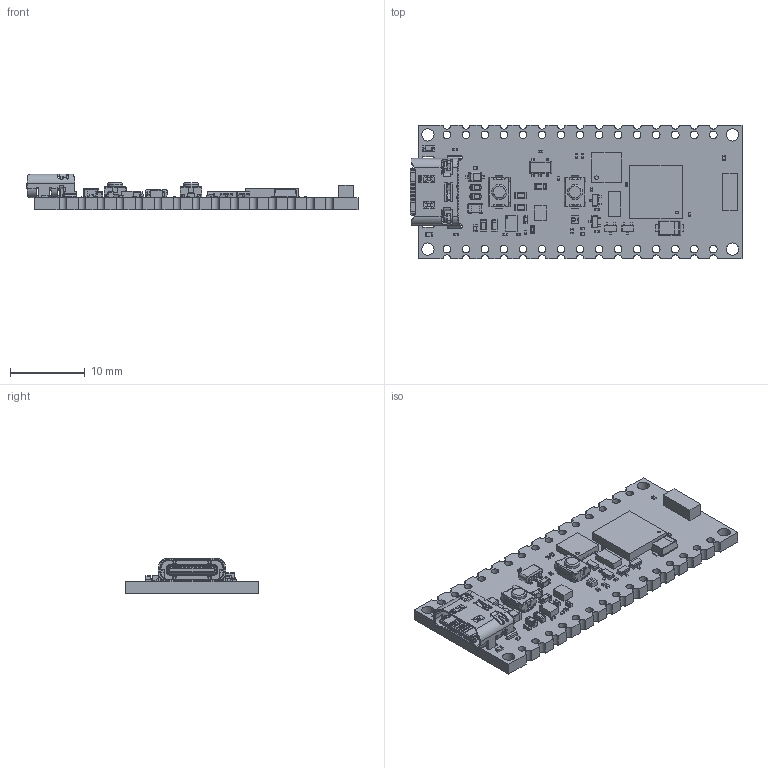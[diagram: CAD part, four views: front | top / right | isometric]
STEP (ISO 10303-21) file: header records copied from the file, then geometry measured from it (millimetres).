
FILE_DESCRIPTION(('Open CASCADE Model'),'2;1');
FILE_NAME('Open CASCADE Shape Model','2024-11-14T17:50:22',('Author'),( 'Open CASCADE'),'Open CASCADE STEP processor 7.5','Open CASCADE 7.5' ,'Unknown');
FILE_SCHEMA(('AUTOMOTIVE_DESIGN { 1 0 10303 214 1 1 1 1 }'));
Length unit declared in the file: millimetre
Products named in the file (98): Open CASCADE STEP translator 7.5 1; Open CASCADE STEP translator 7.5 2; Open CASCADE STEP translator 7.5 3; Open CASCADE STEP translator 7.5 4; Open CASCADE STEP translator 7.5 5; Open CASCADE STEP translator 7.5 6; Open CASCADE STEP translator 7.5 7; Open CASCADE STEP translator 7.5 8; Open CASCADE STEP translator 7.5 9; Open CASCADE STEP translator 7.5 10; Open CASCADE STEP translator 7.5 11; Open CASCADE STEP translator 7.5 12; Open CASCADE STEP translator 7.5 13; Open CASCADE STEP translator 7.5 14; Open CASCADE STEP translator 7.5 15; Open CASCADE STEP translator 7.5 16; Open CASCADE STEP translator 7.5 17; Open CASCADE STEP translator 7.5 18; Open CASCADE STEP translator 7.5 19; Open CASCADE STEP translator 7.5 20; Open CASCADE STEP translator 7.5 21; Open CASCADE STEP translator 7.5 22; Open CASCADE STEP translator 7.5 23; Open CASCADE STEP translator 7.5 24; Open CASCADE STEP translator 7.5 25; Open CASCADE STEP translator 7.5 26; Open CASCADE STEP translator 7.5 27; Open CASCADE STEP translator 7.5 28; Open CASCADE STEP translator 7.5 29; Open CASCADE STEP translator 7.5 30; Open CASCADE STEP translator 7.5 31; Open CASCADE STEP translator 7.5 32; Open CASCADE STEP translator 7.5 33; Open CASCADE STEP translator 7.5 34; Open CASCADE STEP translator 7.5 35; Open CASCADE STEP translator 7.5 36; Open CASCADE STEP translator 7.5 37; Open CASCADE STEP translator 7.5 38; Open CASCADE STEP translator 7.5 39; Open CASCADE STEP translator 7.5 40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
Bounding box: 44.29 x 17.78 x 4.78 mm (x, y, z)
Volume: 1402.1 mm3; surface area: 2944.5 mm2
Topology: 150 solids, 154 shells, 4597 faces, 11611 edges, 7127 vertices
Faces by surface type: plane 3106, cylinder 1137, bspline 154, sphere 140, cone 46, revolution 8, torus 6
Full cylindrical faces by diameter (mm): 0.07 x1, 0.2 x1, 0.351 x1, 0.45 x2, 0.5 x1, 0.6 x2, 0.8 x2, 1.016 x30, 1.652 x4, 2 x2, 2.05 x2
Entity records: 160805 total; most frequent: CARTESIAN_POINT 29091, ORIENTED_EDGE 22956, DIRECTION 22340, EDGE_CURVE 11479, LINE 8758, VECTOR 8758, VERTEX_POINT 7127, AXIS2_PLACEMENT_3D 6787
